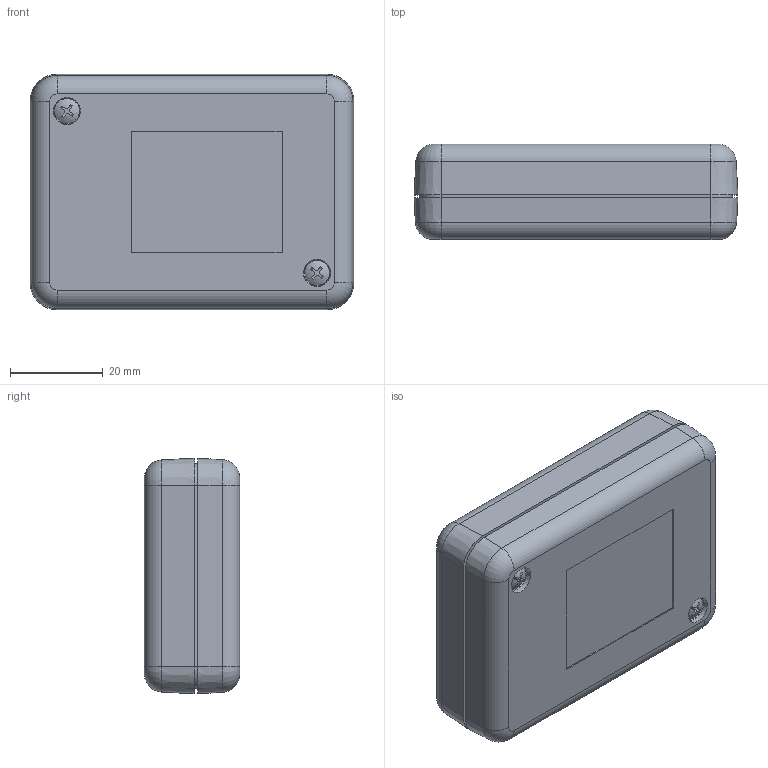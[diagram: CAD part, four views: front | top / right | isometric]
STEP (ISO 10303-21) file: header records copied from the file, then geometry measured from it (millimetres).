
FILE_DESCRIPTION (( 'STEP AP214' ), '1' );
FILE_NAME ('KT-40T0.STEP', '2023-10-05T18:11:33', ( '' ), ( '' ), 'SwSTEP 2.0', 'SolidWorks 2023', '' );
FILE_SCHEMA (( 'AUTOMOTIVE_DESIGN' ));
Length unit declared in the file: inch
Products named in the file (4): KT-40B_KT-40B; KT-40T0; KT-40C_KT-40TC0; SCREWS-HL5-8-BR_default
Assembly tree (4 placements, depth 2):
  KT-40T0
    KT-40B_KT-40B
    KT-40C_KT-40TC0
    SCREWS-HL5-8-BR_default  x2
Bounding box: 69.9 x 20.57 x 50.85 mm (x, y, z)
Volume: 23855.6 mm3; surface area: 22404.8 mm2
Topology: 4 solids, 4 shells, 217 faces, 537 edges, 345 vertices
Faces by surface type: plane 93, cylinder 52, cone 42, torus 20, bspline 8, sphere 2
Full cylindrical faces by diameter (mm): 1.651 x22, 2.929 x2
Entity records: 5882 total; most frequent: CARTESIAN_POINT 2142, DIRECTION 797, ORIENTED_EDGE 696, EDGE_CURVE 348, AXIS2_PLACEMENT_3D 306, VERTEX_POINT 231, EDGE_LOOP 197, VECTOR 185
